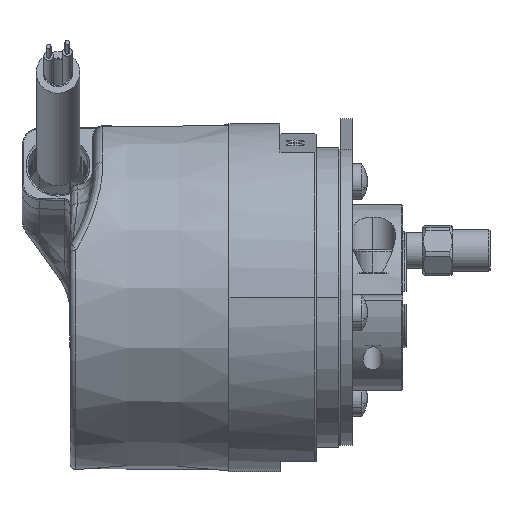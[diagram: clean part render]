
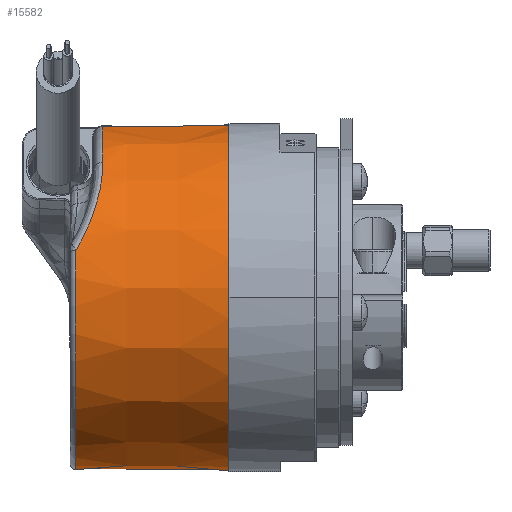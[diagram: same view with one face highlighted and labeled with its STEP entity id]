
A CAD part, top view. The second image highlights one B-rep face of the part: STEP entity #15582.
In plain terms, the highlighted conical face has half-angle 0.5 degrees and reference radius 29 mm.
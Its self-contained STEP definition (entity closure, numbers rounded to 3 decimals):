
#6707 = VERTEX_POINT ( 'NONE', #10282 ) ;
#6712 = EDGE_CURVE ( 'NONE', #6707, #6714, #10276, .T. ) ;
#6714 = VERTEX_POINT ( 'NONE', #10271 ) ;
#6723 = VERTEX_POINT ( 'NONE', #10384 ) ;
#6847 = VERTEX_POINT ( 'NONE', #10885 ) ;
#6852 = EDGE_CURVE ( 'NONE', #6847, #6723, #10860, .T. ) ;
#6888 = VERTEX_POINT ( 'NONE', #11054 ) ;
#6890 = EDGE_CURVE ( 'NONE', #6707, #6888, #11051, .T. ) ;
#7468 = EDGE_CURVE ( 'NONE', #7469, #6847, #13370, .T. ) ;
#7469 = VERTEX_POINT ( 'NONE', #13364 ) ;
#10271 = CARTESIAN_POINT ( 'NONE',  ( 7.5, 28.684, 3.522 ) ) ;
#10272 = DIRECTION ( 'NONE',  ( 1., 0.009, 0.001 ) ) ;
#10273 = VECTOR ( 'NONE', #10272, 1000. ) ;
#10275 = CARTESIAN_POINT ( 'NONE',  ( 19., 28.784, 3.534 ) ) ;
#10276 = LINE ( 'NONE', #10275, #10273 ) ;
#10282 = CARTESIAN_POINT ( 'NONE',  ( -13.513, 28.502, 3.5 ) ) ;
#10384 = CARTESIAN_POINT ( 'NONE',  ( 7.5, -28.684, -3.522 ) ) ;
#10846 = DIRECTION ( 'NONE',  ( 1., -0.009, -0.001 ) ) ;
#10847 = VECTOR ( 'NONE', #10846, 1000. ) ;
#10850 = CARTESIAN_POINT ( 'NONE',  ( 19., -28.784, -3.534 ) ) ;
#10860 = LINE ( 'NONE', #10850, #10847 ) ;
#10885 = CARTESIAN_POINT ( 'NONE',  ( -18.009, -28.463, -3.495 ) ) ;
#11046 = DIRECTION ( 'NONE',  ( 0., -0.993, -0.122 ) ) ;
#11048 = DIRECTION ( 'NONE',  ( 1., 0., 0. ) ) ;
#11049 = CARTESIAN_POINT ( 'NONE',  ( -13.513, 0., 0. ) ) ;
#11050 = AXIS2_PLACEMENT_3D ( 'NONE', #11049, #11048, #11046 ) ;
#11051 = CIRCLE ( 'NONE', #11050, 28.716 ) ;
#11054 = CARTESIAN_POINT ( 'NONE',  ( -13.513, 22.576, 17.747 ) ) ;
#13358 = DIRECTION ( 'NONE',  ( 0., 0.993, 0.122 ) ) ;
#13359 = DIRECTION ( 'NONE',  ( 1., 0., 0. ) ) ;
#13360 = CARTESIAN_POINT ( 'NONE',  ( -18.009, 0., 0. ) ) ;
#13361 = AXIS2_PLACEMENT_3D ( 'NONE', #13360, #13359, #13358 ) ;
#13364 = CARTESIAN_POINT ( 'NONE',  ( -18.009, 7.822, 27.59 ) ) ;
#13370 = CIRCLE ( 'NONE', #13361, 28.677 ) ;
#15435 = EDGE_CURVE ( 'NONE', #6888, #7469, #22814, .T. ) ;
#15582 = ADVANCED_FACE ( 'NONE', ( #23686 ), #23672, .T. ) ;
#15583 = EDGE_LOOP ( 'NONE', ( #15584, #15585, #15586, #15587, #15588, #15589 ) ) ;
#15584 = ORIENTED_EDGE ( 'NONE', *, *, #6712, .F. ) ;
#15585 = ORIENTED_EDGE ( 'NONE', *, *, #6890, .T. ) ;
#15586 = ORIENTED_EDGE ( 'NONE', *, *, #15435, .T. ) ;
#15587 = ORIENTED_EDGE ( 'NONE', *, *, #7468, .T. ) ;
#15588 = ORIENTED_EDGE ( 'NONE', *, *, #6852, .T. ) ;
#15589 = ORIENTED_EDGE ( 'NONE', *, *, #15590, .F. ) ;
#15590 = EDGE_CURVE ( 'NONE', #6714, #6723, #23671, .T. ) ;
#22789 = CARTESIAN_POINT ( 'NONE',  ( -18.009, 7.822, 27.59 ) ) ;
#22790 = CARTESIAN_POINT ( 'NONE',  ( -17.619, 8.483, 27.406 ) ) ;
#22791 = CARTESIAN_POINT ( 'NONE',  ( -17.253, 9.148, 27.195 ) ) ;
#22792 = CARTESIAN_POINT ( 'NONE',  ( -16.572, 10.484, 26.715 ) ) ;
#22793 = CARTESIAN_POINT ( 'NONE',  ( -16.255, 11.157, 26.444 ) ) ;
#22794 = CARTESIAN_POINT ( 'NONE',  ( -15.389, 13.156, 25.549 ) ) ;
#22795 = CARTESIAN_POINT ( 'NONE',  ( -14.923, 14.459, 24.842 ) ) ;
#22796 = CARTESIAN_POINT ( 'NONE',  ( -14.374, 16.358, 23.605 ) ) ;
#22797 = CARTESIAN_POINT ( 'NONE',  ( -14.216, 16.981, 23.163 ) ) ;
#22798 = CARTESIAN_POINT ( 'NONE',  ( -14.016, 17.9, 22.453 ) ) ;
#22799 = CARTESIAN_POINT ( 'NONE',  ( -13.955, 18.204, 22.207 ) ) ;
#22800 = CARTESIAN_POINT ( 'NONE',  ( -13.846, 18.801, 21.705 ) ) ;
#22801 = CARTESIAN_POINT ( 'NONE',  ( -13.798, 19.095, 21.448 ) ) ;
#22802 = CARTESIAN_POINT ( 'NONE',  ( -13.587, 20.534, 20.134 ) ) ;
#22803 = CARTESIAN_POINT ( 'NONE',  ( -13.513, 21.6, 18.988 ) ) ;
#22804 = CARTESIAN_POINT ( 'NONE',  ( -13.513, 22.576, 17.747 ) ) ;
#22814 = B_SPLINE_CURVE_WITH_KNOTS ( 'NONE', 3,
 ( #22804, #22803, #22802, #22801, #22800, #22799, #22798, #22797, #22796, #22795, #22794, #22793, #22792, #22791, #22790, #22789 ),
 .UNSPECIFIED., .F., .F.,
 ( 4, 2, 2, 2, 2, 2, 2, 4 ),
 ( 0., 0.005, 0.006, 0.007, 0.009, 0.014, 0.016, 0.019 ),
 .UNSPECIFIED. ) ;
#23665 = CARTESIAN_POINT ( 'NONE',  ( 7.5, 0., 0. ) ) ;
#23666 = AXIS2_PLACEMENT_3D ( 'NONE', #23665, #23721, #23720 ) ;
#23667 = DIRECTION ( 'NONE',  ( 0., -0.993, -0.122 ) ) ;
#23668 = DIRECTION ( 'NONE',  ( 1., 0., 0. ) ) ;
#23669 = CARTESIAN_POINT ( 'NONE',  ( 19., 0., 0. ) ) ;
#23670 = AXIS2_PLACEMENT_3D ( 'NONE', #23669, #23668, #23667 ) ;
#23671 = CIRCLE ( 'NONE', #23666, 28.9 ) ;
#23672 = CONICAL_SURFACE ( 'NONE', #23670, 29., 0.009 ) ;
#23686 = FACE_OUTER_BOUND ( 'NONE', #15583, .T. ) ;
#23720 = DIRECTION ( 'NONE',  ( 0., -0.993, -0.122 ) ) ;
#23721 = DIRECTION ( 'NONE',  ( 1., 0., 0. ) ) ;
